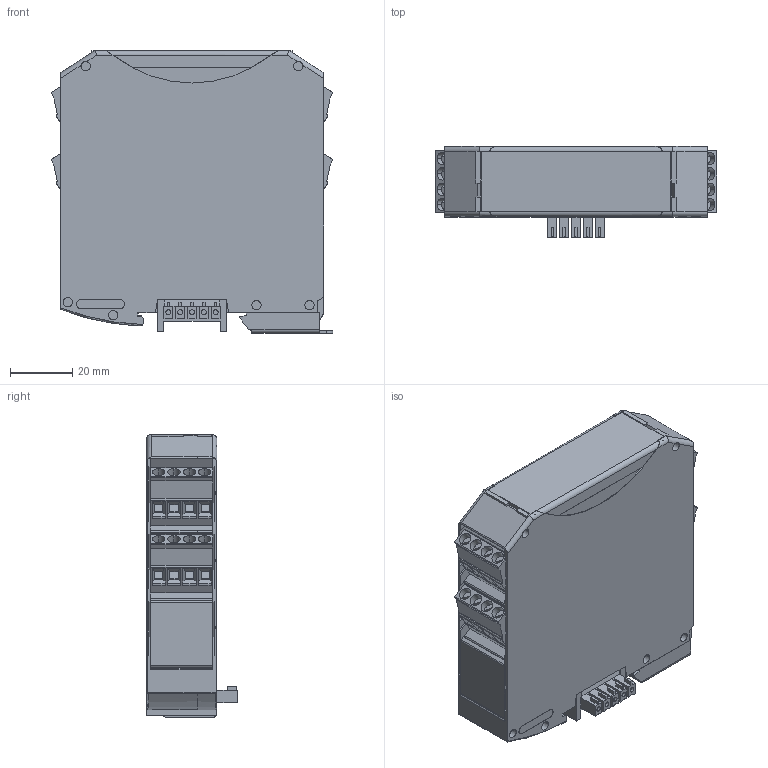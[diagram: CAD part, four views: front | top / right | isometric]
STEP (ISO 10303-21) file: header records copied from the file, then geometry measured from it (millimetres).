
FILE_DESCRIPTION(('STEP AP214'),'1');
FILE_NAME('cctmp_9AEE09D1-D0A9-4D60-AD3D-5B59138C6B21_2023_02_15_10_27_45_0553_5576..stp','2023-02-15T10:27:46',('PHOENIX CONTACT Deutschland GmbH'),('CADClick - www.CADClick.com'),'Spatial InterOp 3D',' ','unknown authorization');
FILE_SCHEMA(('AUTOMOTIVE_DESIGN'));
Length unit declared in the file: millimetre
Products named in the file (11): 2023_02_15_10_27_45_0022; 2023_02_15_10_27_45_0553; 2023_02_15_10_27_45_0506; 2023_02_15_10_27_45_0490; 2023_02_15_10_27_45_0475; 2023_02_15_10_27_45_0459; 2023_02_15_10_27_45_0443; 2023_02_15_10_27_45_0428; 2023_02_15_10_27_45_0412; 2023_02_15_10_27_45_0397; 2023_02_15_10_27_45_0350
Assembly tree (10 placements, depth 2):
  2023_02_15_10_27_45_0022
    2023_02_15_10_27_45_0553
    2023_02_15_10_27_45_0506
    2023_02_15_10_27_45_0490
    2023_02_15_10_27_45_0475
    2023_02_15_10_27_45_0459
    2023_02_15_10_27_45_0443
    2023_02_15_10_27_45_0428
    2023_02_15_10_27_45_0412
    2023_02_15_10_27_45_0397
    2023_02_15_10_27_45_0350
Bounding box: 90.61 x 29.2 x 91.1 mm (x, y, z)
Volume: 62762.3 mm3; surface area: 74026.6 mm2
Topology: 10 solids, 10 shells, 2741 faces, 7519 edges, 4918 vertices
Faces by surface type: plane 2220, cylinder 513, torus 6, cone 2
Entity records: 120021 total; most frequent: CARTESIAN_POINT 16063, ORIENTED_EDGE 15038, DIRECTION 14152, EDGE_CURVE 7519, LINE 6344, VECTOR 6344, STYLED_ITEM 5499, PRESENTATION_STYLE_ASSIGNMENT 5499
